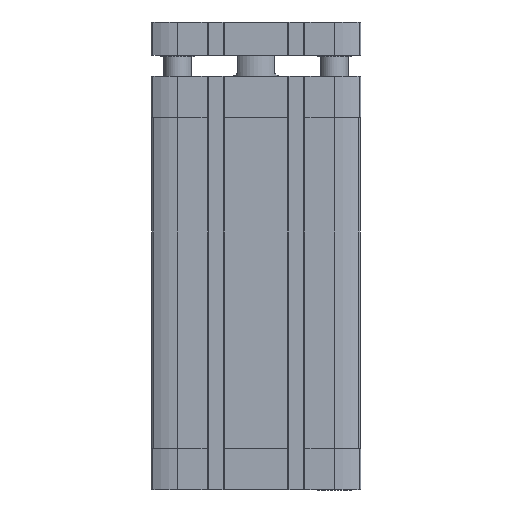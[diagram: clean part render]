
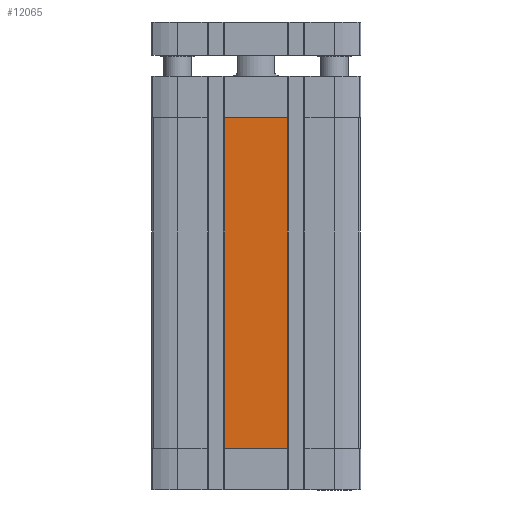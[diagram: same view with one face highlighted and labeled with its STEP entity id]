
A CAD part, left-side view. The second image highlights one B-rep face of the part: STEP entity #12065.
In plain terms, the highlighted planar face has unit normal (-1, 0, 0) as drawn and (0, 1, 0) by its records, which use the part's own axes.
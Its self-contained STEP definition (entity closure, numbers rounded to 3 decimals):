
#947 = LINE ( 'NONE', #19701, #5131 ) ;
#1785 = PLANE ( 'NONE',  #5111 ) ;
#1835 = DIRECTION ( 'NONE',  ( 1., 0., 0. ) ) ;
#3141 = VERTEX_POINT ( 'NONE', #15499 ) ;
#3602 = CARTESIAN_POINT ( 'NONE',  ( -11.4, 37.5, -15. ) ) ;
#3663 = DIRECTION ( 'NONE',  ( -1., 0., 0. ) ) ;
#4194 = EDGE_LOOP ( 'NONE', ( #7344, #15454, #20283, #7478 ) ) ;
#4305 = DIRECTION ( 'NONE',  ( 0., 0., 1. ) ) ;
#5111 = AXIS2_PLACEMENT_3D ( 'NONE', #19630, #8956, #21470 ) ;
#5131 = VECTOR ( 'NONE', #3663, 1000. ) ;
#5456 = VERTEX_POINT ( 'NONE', #11935 ) ;
#5594 = EDGE_CURVE ( 'NONE', #11225, #5456, #16518, .T. ) ;
#5790 = LINE ( 'NONE', #19541, #9943 ) ;
#6722 = EDGE_CURVE ( 'NONE', #5456, #8661, #5790, .T. ) ;
#7344 = ORIENTED_EDGE ( 'NONE', *, *, #8624, .T. ) ;
#7444 = EDGE_CURVE ( 'NONE', #3141, #11225, #14909, .T. ) ;
#7478 = ORIENTED_EDGE ( 'NONE', *, *, #6722, .T. ) ;
#8623 = FACE_OUTER_BOUND ( 'NONE', #4194, .T. ) ;
#8624 = EDGE_CURVE ( 'NONE', #8661, #3141, #947, .T. ) ;
#8661 = VERTEX_POINT ( 'NONE', #18149 ) ;
#8956 = DIRECTION ( 'NONE',  ( 0., 1., 0. ) ) ;
#9633 = VECTOR ( 'NONE', #4305, 1000. ) ;
#9943 = VECTOR ( 'NONE', #21373, 1000. ) ;
#11225 = VERTEX_POINT ( 'NONE', #3602 ) ;
#11751 = VECTOR ( 'NONE', #1835, 1000. ) ;
#11935 = CARTESIAN_POINT ( 'NONE',  ( 11.4, 37.5, -15. ) ) ;
#12065 = ADVANCED_FACE ( 'NONE', ( #8623 ), #1785, .T. ) ;
#14132 = CARTESIAN_POINT ( 'NONE',  ( 0., 37.5, -15. ) ) ;
#14909 = LINE ( 'NONE', #20298, #9633 ) ;
#15454 = ORIENTED_EDGE ( 'NONE', *, *, #7444, .T. ) ;
#15499 = CARTESIAN_POINT ( 'NONE',  ( -11.4, 37.5, -134. ) ) ;
#16518 = LINE ( 'NONE', #14132, #11751 ) ;
#18149 = CARTESIAN_POINT ( 'NONE',  ( 11.4, 37.5, -134. ) ) ;
#19541 = CARTESIAN_POINT ( 'NONE',  ( 11.4, 37.5, -134. ) ) ;
#19630 = CARTESIAN_POINT ( 'NONE',  ( 11.4, 37.5, -134. ) ) ;
#19701 = CARTESIAN_POINT ( 'NONE',  ( 11.4, 37.5, -134. ) ) ;
#20283 = ORIENTED_EDGE ( 'NONE', *, *, #5594, .T. ) ;
#20298 = CARTESIAN_POINT ( 'NONE',  ( -11.4, 37.5, -134. ) ) ;
#21373 = DIRECTION ( 'NONE',  ( 0., 0., -1. ) ) ;
#21470 = DIRECTION ( 'NONE',  ( 0., 0., 1. ) ) ;
